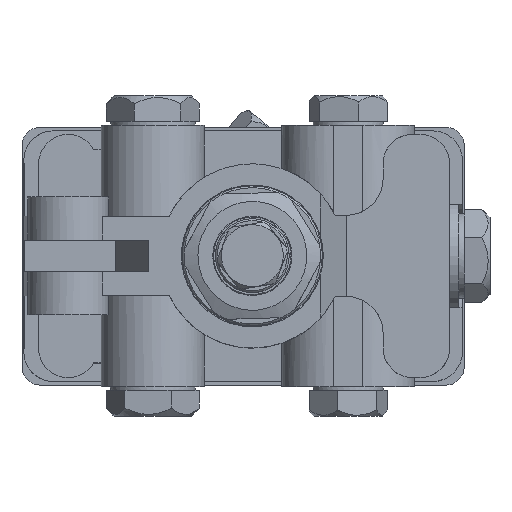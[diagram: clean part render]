
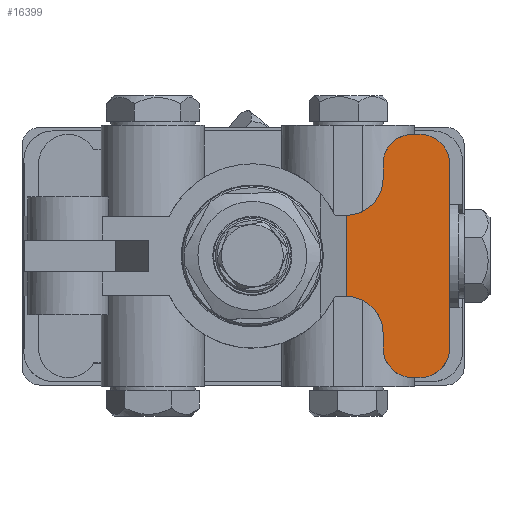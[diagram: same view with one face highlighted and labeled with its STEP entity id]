
A CAD part, top view. The second image highlights one B-rep face of the part: STEP entity #16399.
In plain terms, the highlighted planar face has unit normal (0, 0, 1).
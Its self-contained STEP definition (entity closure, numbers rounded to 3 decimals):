
#1321=CIRCLE('',#17681,8.);
#1322=CIRCLE('',#17683,10.);
#1323=CIRCLE('',#17684,8.);
#1324=CIRCLE('',#17685,8.);
#1325=CIRCLE('',#17686,8.);
#1326=CIRCLE('',#17687,10.);
#4036=ORIENTED_EDGE('',*,*,#6242,.T.);
#4037=ORIENTED_EDGE('',*,*,#6243,.F.);
#4038=ORIENTED_EDGE('',*,*,#6244,.F.);
#4039=ORIENTED_EDGE('',*,*,#6245,.F.);
#4040=ORIENTED_EDGE('',*,*,#6246,.F.);
#4041=ORIENTED_EDGE('',*,*,#6221,.F.);
#4042=ORIENTED_EDGE('',*,*,#6241,.F.);
#4043=ORIENTED_EDGE('',*,*,#6247,.F.);
#4044=ORIENTED_EDGE('',*,*,#6248,.F.);
#4045=ORIENTED_EDGE('',*,*,#6249,.F.);
#4046=ORIENTED_EDGE('',*,*,#6250,.T.);
#4047=ORIENTED_EDGE('',*,*,#5927,.T.);
#5927=EDGE_CURVE('',#7249,#7248,#8006,.F.);
#6221=EDGE_CURVE('',#7444,#7445,#8137,.T.);
#6241=EDGE_CURVE('',#7459,#7444,#1321,.T.);
#6242=EDGE_CURVE('',#7248,#7460,#1322,.T.);
#6243=EDGE_CURVE('',#7461,#7460,#8153,.T.);
#6244=EDGE_CURVE('',#7462,#7461,#1323,.T.);
#6245=EDGE_CURVE('',#7463,#7462,#8154,.T.);
#6246=EDGE_CURVE('',#7445,#7463,#1324,.T.);
#6247=EDGE_CURVE('',#7464,#7459,#8155,.T.);
#6248=EDGE_CURVE('',#7465,#7464,#1325,.T.);
#6249=EDGE_CURVE('',#7466,#7465,#8156,.T.);
#6250=EDGE_CURVE('',#7466,#7249,#1326,.T.);
#7248=VERTEX_POINT('',#26823);
#7249=VERTEX_POINT('',#26825);
#7444=VERTEX_POINT('',#27565);
#7445=VERTEX_POINT('',#27567);
#7459=VERTEX_POINT('',#27604);
#7460=VERTEX_POINT('',#27608);
#7461=VERTEX_POINT('',#27610);
#7462=VERTEX_POINT('',#27612);
#7463=VERTEX_POINT('',#27614);
#7464=VERTEX_POINT('',#27617);
#7465=VERTEX_POINT('',#27619);
#7466=VERTEX_POINT('',#27621);
#8006=LINE('',#26824,#8691);
#8137=LINE('',#27566,#8822);
#8153=LINE('',#27609,#8838);
#8154=LINE('',#27613,#8839);
#8155=LINE('',#27616,#8840);
#8156=LINE('',#27620,#8841);
#8691=VECTOR('',#20095,1000.);
#8822=VECTOR('',#20690,1000.);
#8838=VECTOR('',#20728,1000.);
#8839=VECTOR('',#20731,1000.);
#8840=VECTOR('',#20734,1000.);
#8841=VECTOR('',#20737,1000.);
#9603=EDGE_LOOP('',(#4036,#4037,#4038,#4039,#4040,#4041,#4042,#4043,#4044,
#4045,#4046,#4047));
#10393=FACE_BOUND('',#9603,.T.);
#10790=PLANE('',#17682);
#16399=ADVANCED_FACE('',(#10393),#10790,.F.);
#17681=AXIS2_PLACEMENT_3D('',#27605,#20722,#20723);
#17682=AXIS2_PLACEMENT_3D('',#27606,#20724,#20725);
#17683=AXIS2_PLACEMENT_3D('',#27607,#20726,#20727);
#17684=AXIS2_PLACEMENT_3D('',#27611,#20729,#20730);
#17685=AXIS2_PLACEMENT_3D('',#27615,#20732,#20733);
#17686=AXIS2_PLACEMENT_3D('',#27618,#20735,#20736);
#17687=AXIS2_PLACEMENT_3D('',#27622,#20738,#20739);
#20095=DIRECTION('',(0.,1.,0.));
#20690=DIRECTION('',(0.,-1.,0.));
#20722=DIRECTION('',(0.,0.,-1.));
#20723=DIRECTION('',(-1.,0.,0.));
#20724=DIRECTION('',(0.,0.,-1.));
#20725=DIRECTION('',(-1.,0.,0.));
#20726=DIRECTION('',(0.,0.,-1.));
#20727=DIRECTION('',(-1.,0.,0.));
#20728=DIRECTION('',(0.,1.,0.));
#20729=DIRECTION('',(0.,0.,-1.));
#20730=DIRECTION('',(1.,0.,0.));
#20731=DIRECTION('',(-1.,0.,0.));
#20732=DIRECTION('',(0.,0.,-1.));
#20733=DIRECTION('',(1.,0.,0.));
#20734=DIRECTION('',(1.,0.,0.));
#20735=DIRECTION('',(0.,0.,-1.));
#20736=DIRECTION('',(1.,0.,0.));
#20737=DIRECTION('',(0.,1.,0.));
#20738=DIRECTION('',(0.,0.,-1.));
#20739=DIRECTION('',(-1.,0.,0.));
#26823=CARTESIAN_POINT('',(25.5,-11.,46.));
#26824=CARTESIAN_POINT('',(25.5,0.,46.));
#26825=CARTESIAN_POINT('',(25.5,11.,46.));
#27565=CARTESIAN_POINT('',(53.5,25.,46.));
#27566=CARTESIAN_POINT('',(53.5,25.,46.));
#27567=CARTESIAN_POINT('',(53.5,-25.,46.));
#27604=CARTESIAN_POINT('',(45.5,33.,46.));
#27605=CARTESIAN_POINT('',(45.5,25.,46.));
#27606=CARTESIAN_POINT('',(0.,0.,46.));
#27607=CARTESIAN_POINT('',(25.5,-21.,46.));
#27608=CARTESIAN_POINT('',(35.5,-21.,46.));
#27609=CARTESIAN_POINT('',(35.5,-25.,46.));
#27610=CARTESIAN_POINT('',(35.5,-25.,46.));
#27611=CARTESIAN_POINT('',(43.5,-25.,46.));
#27612=CARTESIAN_POINT('',(43.5,-33.,46.));
#27613=CARTESIAN_POINT('',(45.5,-33.,46.));
#27614=CARTESIAN_POINT('',(45.5,-33.,46.));
#27615=CARTESIAN_POINT('',(45.5,-25.,46.));
#27616=CARTESIAN_POINT('',(43.5,33.,46.));
#27617=CARTESIAN_POINT('',(43.5,33.,46.));
#27618=CARTESIAN_POINT('',(43.5,25.,46.));
#27619=CARTESIAN_POINT('',(35.5,25.,46.));
#27620=CARTESIAN_POINT('',(35.5,21.,46.));
#27621=CARTESIAN_POINT('',(35.5,21.,46.));
#27622=CARTESIAN_POINT('',(25.5,21.,46.));
